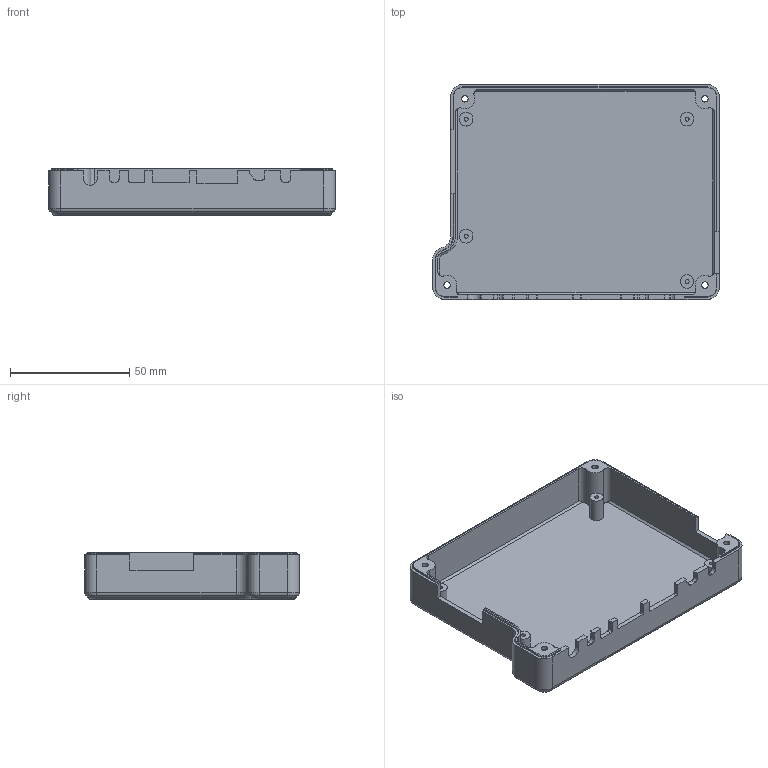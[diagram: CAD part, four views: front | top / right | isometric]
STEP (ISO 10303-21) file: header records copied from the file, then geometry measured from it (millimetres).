
FILE_DESCRIPTION((''),'2;1');
FILE_NAME('00_BOTTOM_COVER','2025-12-10T10:24:55',('ts'),(''),'CREO PARAMETRIC BY PTC INC, 2020154','CREO PARAMETRIC BY PTC INC, 2020154','');
FILE_SCHEMA(('AUTOMOTIVE_DESIGN { 1 0 10303 214 1 1 1 1 }'));
Length unit declared in the file: millimetre
Products named in the file (1): 00_BOTTOM_COVER
Bounding box: 120 x 90 x 19.46 mm (x, y, z)
Volume: 35811.8 mm3; surface area: 35331.9 mm2
Topology: 1 solids, 1 shells, 201 faces, 514 edges, 327 vertices
Faces by surface type: plane 92, cylinder 79, cone 14, torus 12, extrusion 4
Entity records: 6380 total; most frequent: CARTESIAN_POINT 1190, DIRECTION 1084, ORIENTED_EDGE 1028, EDGE_CURVE 514, AXIS2_PLACEMENT_3D 385, VERTEX_POINT 327, VECTOR 314, LINE 310
